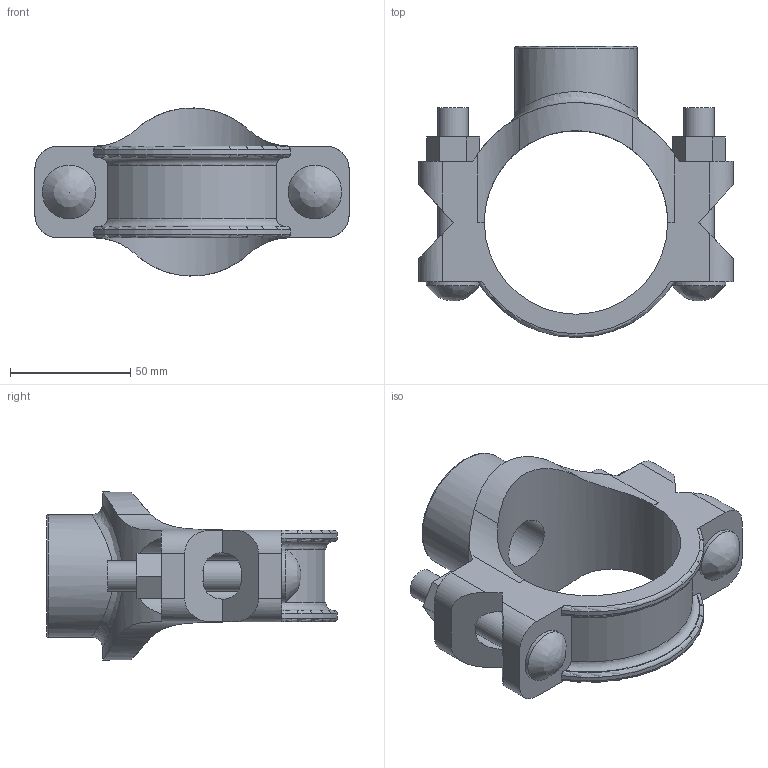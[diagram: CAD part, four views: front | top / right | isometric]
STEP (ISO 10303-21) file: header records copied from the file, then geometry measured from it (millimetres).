
FILE_DESCRIPTION(/* description */ ('VIC SS MECHANICAL T BRANCH OUTLET STYLE 422 (FPT)','CAx-IF Rec.Pracs.---Representation and Presentation of Product Manufacturing Information (PMI)---4.0---2014-10-13'),/* implementation_level */ '2;1');
FILE_NAME(/* name */ 'C:\Files for Export\422\STEP\Victaulic_SS-OGS_Mech-Tee Out_Style 422 (FPT)\Victaulic_SS-OGS_Mech-Tee Out_Style 422 (FPT)_02.5 (76.1)x0.75 (65x20).stp',/* time_stamp */ '2023-03-28T14:28:25+02:00',/* author */ ('jheald'),/* organization */ ('Victaulic'),/* preprocessor_version */ 'ST-DEVELOPER v18.1',/* originating_system */ 'Autodesk Inventor 2020',/* authorisation */ '');
FILE_SCHEMA (('AP242_MANAGED_MODEL_BASED_3D_ENGINEERING_MIM_LF { 1 0 10303 442 1 1 4 }'));
Length unit declared in the file: inch
Products named in the file (1): 422-02.5 (76.1)x0.75
Bounding box: 130.56 x 120.9 x 69.81 mm (x, y, z)
Volume: 206254.1 mm3; surface area: 54269.5 mm2
Topology: 1 solids, 1 shells, 92 faces, 280 edges, 186 vertices
Faces by surface type: plane 48, cylinder 34, torus 7, bspline 3
Full cylindrical faces by diameter (mm): 12.7 x4, 20.93 x1, 22.225 x2, 26.67 x1, 50.8 x1, 76.2 x1
Entity records: 3922 total; most frequent: CARTESIAN_POINT 1154, ORIENTED_EDGE 556, DIRECTION 552, EDGE_CURVE 278, AXIS2_PLACEMENT_3D 200, VERTEX_POINT 186, LINE 152, VECTOR 152
